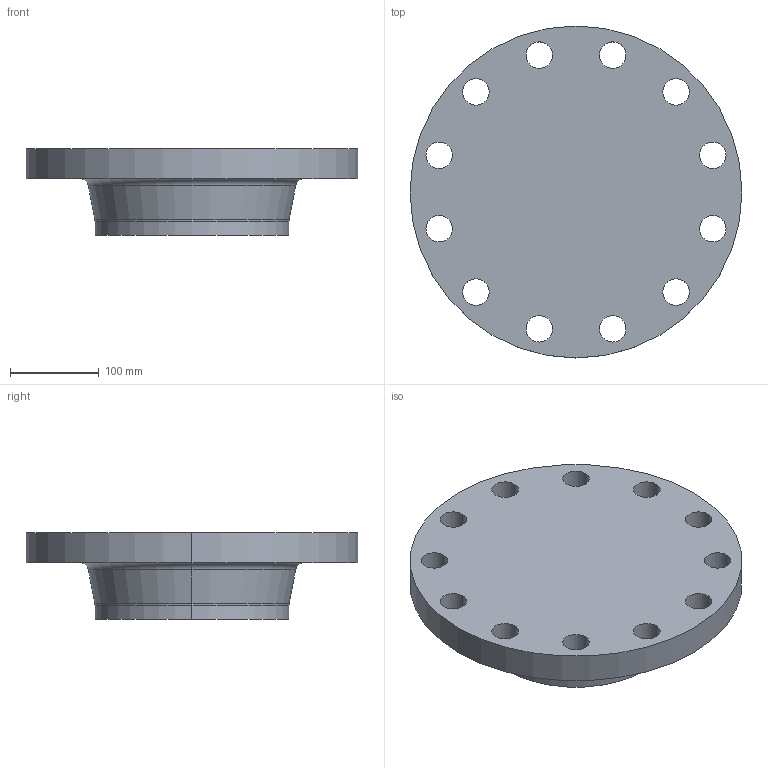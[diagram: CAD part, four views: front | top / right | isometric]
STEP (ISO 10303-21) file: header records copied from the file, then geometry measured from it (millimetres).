
FILE_DESCRIPTION (( 'STEP AP214' ), '1' );
FILE_NAME ('PN40 DN200 Type 21(ii) - Type A Face.STEP', '2019-01-05T02:01:12', ( '' ), ( '' ), 'SwSTEP 2.0', 'SolidWorks 2019', '' );
FILE_SCHEMA (( 'AUTOMOTIVE_DESIGN' ));
Length unit declared in the file: millimetre
Products named in the file (1): PN40 DN200 Type 21(ii) - Type A Face
Bounding box: 375 x 375 x 98 mm (x, y, z)
Volume: 6043363.3 mm3; surface area: 319903.8 mm2
Topology: 1 solids, 1 shells, 37 faces, 96 edges, 62 vertices
Faces by surface type: cylinder 28, torus 4, plane 3, cone 2
Entity records: 1250 total; most frequent: DIRECTION 238, CARTESIAN_POINT 196, ORIENTED_EDGE 192, AXIS2_PLACEMENT_3D 104, EDGE_CURVE 96, CIRCLE 66, VERTEX_POINT 62, EDGE_LOOP 62
